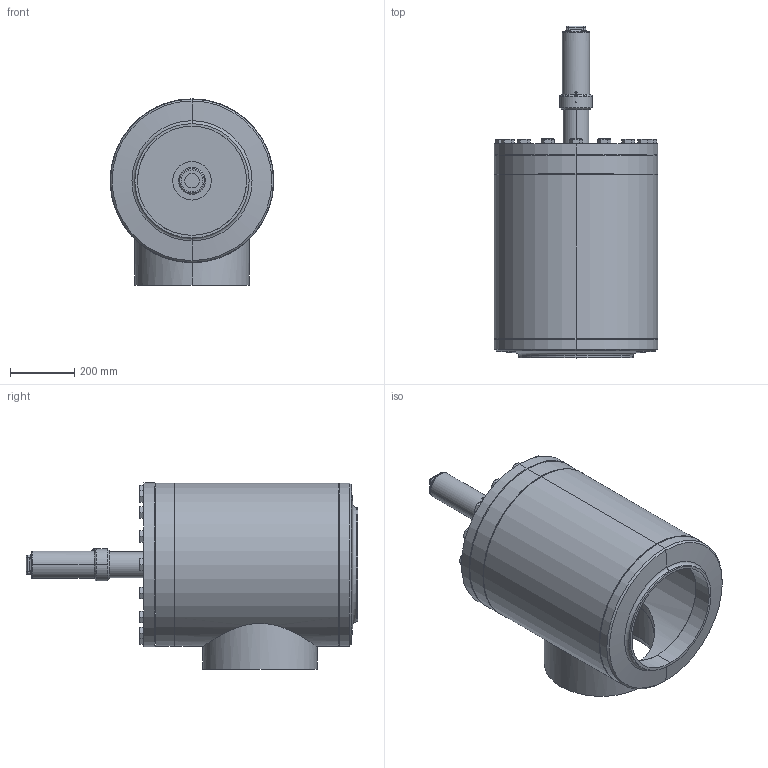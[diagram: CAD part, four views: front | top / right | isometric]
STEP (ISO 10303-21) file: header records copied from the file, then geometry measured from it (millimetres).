
FILE_DESCRIPTION (( 'STEP AP214' ), '1' );
FILE_NAME ('AVR26400aC26-DN350_R1_PS25.STEP', '2009-10-21T12:30:25', ( 'Eckhard Grams' ), ( 'AWP Kälte Klima Armaturen GmbH' ), 'SwSTEP 2.0', 'SolidWorks 2002296', '' );
FILE_SCHEMA (( 'AUTOMOTIVE_DESIGN' ));
Length unit declared in the file: millimetre
Products named in the file (15): AVR26400aC26-DN350_R1_PS25; Kappe 16402-23_DN200-350 (M80x3)_Standard; Geh,kpl 26300a-26_R1_Standard; Boden26300-DN350_Standard; Kopfstück26300-DN350_Standard; Rohrstutzen-A26400a-26_R1_Standard; Gehäuse26300-DN350_Standard; bead Geh,kpl 26300a-26-2_Standard; bead Geh,kpl 26300a-26-1_Standard; AVR26300B26_Deck+Schr-DN350_Standard; Deckel,kpl26300B26-DN350_Standard; Scheibe f Deckel26300-DN350_Standard; Buchse1 f Deckel26300-DN350_Standard; bead-deck263-350_Standard; Sechskantschraube-DIN933_M24x 65
Assembly tree (29 placements, depth 4):
  AVR26400aC26-DN350_R1_PS25
    AVR26300B26_Deck+Schr-DN350_Standard
      Sechskantschraube-DIN933_M24x 65  x16
      Deckel,kpl26300B26-DN350_Standard
        Buchse1 f Deckel26300-DN350_Standard
        Scheibe f Deckel26300-DN350_Standard
        bead-deck263-350_Standard
    Geh,kpl 26300a-26_R1_Standard
      Gehäuse26300-DN350_Standard
      Kopfstück26300-DN350_Standard
      bead Geh,kpl 26300a-26-1_Standard
      Rohrstutzen-A26400a-26_R1_Standard
      bead Geh,kpl 26300a-26-2_Standard
      Boden26300-DN350_Standard
    Kappe 16402-23_DN200-350 (M80x3)_Standard
Bounding box: 510 x 1033 x 580 mm (x, y, z)
Volume: 37574901.2 mm3; surface area: 3730660.8 mm2
Topology: 26 solids, 26 shells, 624 faces, 1347 edges, 801 vertices
Faces by surface type: cone 240, plane 189, cylinder 148, bspline 31, torus 16
Entity records: 23270 total; most frequent: CARTESIAN_POINT 16796, DIRECTION 1257, ORIENTED_EDGE 1134, EDGE_CURVE 567, AXIS2_PLACEMENT_3D 547, VERTEX_POINT 351, EDGE_LOOP 316, CIRCLE 294
